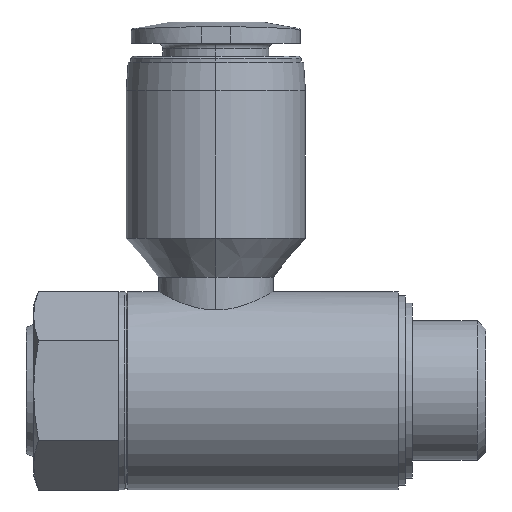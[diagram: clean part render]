
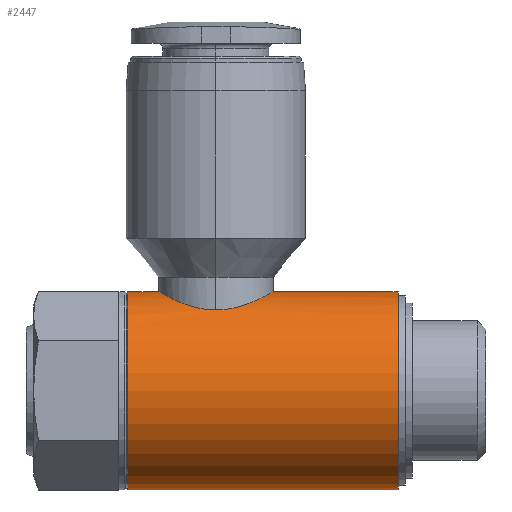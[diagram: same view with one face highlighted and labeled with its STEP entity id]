
A CAD part, left-side view. The second image highlights one B-rep face of the part: STEP entity #2447.
In plain terms, the highlighted cylindrical face has radius 6.9 mm (diameter 13.8 mm), a partial arc.
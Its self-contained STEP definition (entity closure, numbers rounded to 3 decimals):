
#5 = CARTESIAN_POINT ( 'NONE',  ( -0.271, 4., 6.9 ) ) ;
#14 = CARTESIAN_POINT ( 'NONE',  ( 0., -4., 6.9 ) ) ;
#16 = CARTESIAN_POINT ( 'NONE',  ( -3.867, 1.058, 5.715 ) ) ;
#134 = VECTOR ( 'NONE', #694, 1000. ) ;
#148 = LINE ( 'NONE', #474, #134 ) ;
#197 = CARTESIAN_POINT ( 'NONE',  ( -2.652, -3.005, 6.373 ) ) ;
#218 = CARTESIAN_POINT ( 'NONE',  ( 0., -12.7, 0. ) ) ;
#231 = CARTESIAN_POINT ( 'NONE',  ( -1.057, 3.867, 6.824 ) ) ;
#241 = CARTESIAN_POINT ( 'NONE',  ( -3.966, 0.537, 5.646 ) ) ;
#251 = EDGE_CURVE ( 'NONE', #2287, #656, #1396, .T. ) ;
#279 = ORIENTED_EDGE ( 'NONE', *, *, #291, .T. ) ;
#291 = EDGE_CURVE ( 'NONE', #2064, #2639, #2781, .T. ) ;
#324 = VERTEX_POINT ( 'NONE', #2071 ) ;
#451 = DIRECTION ( 'NONE',  ( 0., 0., 1. ) ) ;
#459 = CARTESIAN_POINT ( 'NONE',  ( -1.797, 3.583, 6.667 ) ) ;
#466 = CIRCLE ( 'NONE', #1532, 6.9 ) ;
#467 = CARTESIAN_POINT ( 'NONE',  ( -4., 0.135, 5.622 ) ) ;
#474 = CARTESIAN_POINT ( 'NONE',  ( 0., -11.15, -6.9 ) ) ;
#555 = CARTESIAN_POINT ( 'NONE',  ( -3.176, -2.445, 6.128 ) ) ;
#586 = DIRECTION ( 'NONE',  ( 0., 1., 0. ) ) ;
#588 = DIRECTION ( 'NONE',  ( 0., 1., 0. ) ) ;
#654 = EDGE_CURVE ( 'NONE', #2430, #2639, #1877, .T. ) ;
#656 = VERTEX_POINT ( 'NONE', #2096 ) ;
#674 = CARTESIAN_POINT ( 'NONE',  ( -2.456, 3.168, 6.452 ) ) ;
#694 = DIRECTION ( 'NONE',  ( 0., 1., 0. ) ) ;
#714 = ORIENTED_EDGE ( 'NONE', *, *, #2229, .F. ) ;
#721 = AXIS2_PLACEMENT_3D ( 'NONE', #1447, #588, #1886 ) ;
#826 = CARTESIAN_POINT ( 'NONE',  ( 0., 6.15, 0. ) ) ;
#906 = CARTESIAN_POINT ( 'NONE',  ( -3.013, 2.643, 6.21 ) ) ;
#1052 = DIRECTION ( 'NONE',  ( 0., 0., 1. ) ) ;
#1072 = ORIENTED_EDGE ( 'NONE', *, *, #1824, .T. ) ;
#1115 = CARTESIAN_POINT ( 'NONE',  ( -3.463, 2.018, 5.97 ) ) ;
#1191 = AXIS2_PLACEMENT_3D ( 'NONE', #826, #2325, #1052 ) ;
#1235 = EDGE_CURVE ( 'NONE', #324, #2484, #148, .T. ) ;
#1317 = ORIENTED_EDGE ( 'NONE', *, *, #1235, .F. ) ;
#1320 = CARTESIAN_POINT ( 'NONE',  ( -3.787, 1.314, 5.769 ) ) ;
#1396 = LINE ( 'NONE', #1477, #2808 ) ;
#1415 = CARTESIAN_POINT ( 'NONE',  ( 0., -12.7, 6.9 ) ) ;
#1422 = CARTESIAN_POINT ( 'NONE',  ( -3.867, -1.056, 5.715 ) ) ;
#1447 = CARTESIAN_POINT ( 'NONE',  ( 0., -11.15, 0. ) ) ;
#1477 = CARTESIAN_POINT ( 'NONE',  ( 0., -11.15, 6.9 ) ) ;
#1507 = CARTESIAN_POINT ( 'NONE',  ( -3.973, -0.534, 5.642 ) ) ;
#1525 = CARTESIAN_POINT ( 'NONE',  ( -0.536, 3.973, 6.884 ) ) ;
#1532 = AXIS2_PLACEMENT_3D ( 'NONE', #218, #1729, #451 ) ;
#1534 = CARTESIAN_POINT ( 'NONE',  ( -3.946, 0.669, 5.66 ) ) ;
#1639 = CARTESIAN_POINT ( 'NONE',  ( -4., 0., 5.622 ) ) ;
#1671 = CARTESIAN_POINT ( 'NONE',  ( -3.014, -2.642, 6.21 ) ) ;
#1729 = DIRECTION ( 'NONE',  ( 0., 1., 0. ) ) ;
#1743 = CARTESIAN_POINT ( 'NONE',  ( -1.314, 3.787, 6.778 ) ) ;
#1752 = CARTESIAN_POINT ( 'NONE',  ( -3.993, 0.271, 5.627 ) ) ;
#1824 = EDGE_CURVE ( 'NONE', #324, #2064, #466, .T. ) ;
#1839 = EDGE_CURVE ( 'NONE', #2287, #2430, #2073, .T. ) ;
#1859 = ORIENTED_EDGE ( 'NONE', *, *, #654, .F. ) ;
#1877 = B_SPLINE_CURVE_WITH_KNOTS ( 'NONE', 3,
 ( #2302, #2548, #1507, #1422, #2040, #2031, #1912, #555, #1671, #197, #2738, #2787, #2752, #2799, #2335, #2146, #2130, #2074 ),
 .UNSPECIFIED., .F., .F.,
 ( 4, 2, 2, 2, 2, 2, 2, 2, 4 ),
 ( 0.019, 0.02, 0.021, 0.022, 0.022, 0.023, 0.024, 0.025, 0.026 ),
 .UNSPECIFIED. ) ;
#1883 = CARTESIAN_POINT ( 'NONE',  ( 0., -11.15, 6.9 ) ) ;
#1886 = DIRECTION ( 'NONE',  ( 0., 0., 1. ) ) ;
#1912 = CARTESIAN_POINT ( 'NONE',  ( -3.462, -2.02, 5.971 ) ) ;
#1968 = CARTESIAN_POINT ( 'NONE',  ( -2.026, 3.459, 6.6 ) ) ;
#1978 = CARTESIAN_POINT ( 'NONE',  ( -4., 0., 5.622 ) ) ;
#2031 = CARTESIAN_POINT ( 'NONE',  ( -3.587, -1.79, 5.896 ) ) ;
#2035 = CYLINDRICAL_SURFACE ( 'NONE', #721, 6.9 ) ;
#2040 = CARTESIAN_POINT ( 'NONE',  ( -3.788, -1.31, 5.768 ) ) ;
#2064 = VERTEX_POINT ( 'NONE', #1415 ) ;
#2071 = CARTESIAN_POINT ( 'NONE',  ( 0., -12.7, -6.9 ) ) ;
#2073 = B_SPLINE_CURVE_WITH_KNOTS ( 'NONE', 3,
 ( #2381, #5, #1525, #231, #1743, #459, #1968, #674, #2175, #906, #2391, #1115, #2610, #1320, #16, #1534, #241, #1752, #467, #1978 ),
 .UNSPECIFIED., .F., .F.,
 ( 4, 2, 2, 2, 2, 2, 2, 2, 2, 4 ),
 ( 0.013, 0.014, 0.014, 0.015, 0.016, 0.017, 0.018, 0.018, 0.019, 0.019 ),
 .UNSPECIFIED. ) ;
#2074 = CARTESIAN_POINT ( 'NONE',  ( 0., -4., 6.9 ) ) ;
#2096 = CARTESIAN_POINT ( 'NONE',  ( 0., 6.15, 6.9 ) ) ;
#2130 = CARTESIAN_POINT ( 'NONE',  ( -0.27, -4., 6.9 ) ) ;
#2146 = CARTESIAN_POINT ( 'NONE',  ( -0.541, -3.972, 6.884 ) ) ;
#2175 = CARTESIAN_POINT ( 'NONE',  ( -2.653, 3.005, 6.373 ) ) ;
#2229 = EDGE_CURVE ( 'NONE', #2484, #656, #2385, .T. ) ;
#2287 = VERTEX_POINT ( 'NONE', #2711 ) ;
#2302 = CARTESIAN_POINT ( 'NONE',  ( -4., 0., 5.622 ) ) ;
#2325 = DIRECTION ( 'NONE',  ( 0., 1., 0. ) ) ;
#2335 = CARTESIAN_POINT ( 'NONE',  ( -1.062, -3.866, 6.823 ) ) ;
#2381 = CARTESIAN_POINT ( 'NONE',  ( 0., 4., 6.9 ) ) ;
#2385 = CIRCLE ( 'NONE', #1191, 6.9 ) ;
#2391 = CARTESIAN_POINT ( 'NONE',  ( -3.178, 2.443, 6.127 ) ) ;
#2430 = VERTEX_POINT ( 'NONE', #1639 ) ;
#2447 = ADVANCED_FACE ( 'CYL_0', ( #2609 ), #2035, .T. ) ;
#2466 = ORIENTED_EDGE ( 'NONE', *, *, #251, .T. ) ;
#2484 = VERTEX_POINT ( 'NONE', #2797 ) ;
#2548 = CARTESIAN_POINT ( 'NONE',  ( -4., -0.269, 5.622 ) ) ;
#2591 = EDGE_LOOP ( 'NONE', ( #1317, #1072, #279, #1859, #2740, #2466, #714 ) ) ;
#2609 = FACE_OUTER_BOUND ( 'NONE', #2591, .T. ) ;
#2610 = CARTESIAN_POINT ( 'NONE',  ( -3.585, 1.793, 5.897 ) ) ;
#2639 = VERTEX_POINT ( 'NONE', #14 ) ;
#2711 = CARTESIAN_POINT ( 'NONE',  ( 0., 4., 6.9 ) ) ;
#2738 = CARTESIAN_POINT ( 'NONE',  ( -2.453, -3.17, 6.453 ) ) ;
#2740 = ORIENTED_EDGE ( 'NONE', *, *, #1839, .F. ) ;
#2752 = CARTESIAN_POINT ( 'NONE',  ( -1.802, -3.581, 6.665 ) ) ;
#2780 = DIRECTION ( 'NONE',  ( 0., 1., 0. ) ) ;
#2781 = LINE ( 'NONE', #1883, #2795 ) ;
#2787 = CARTESIAN_POINT ( 'NONE',  ( -2.028, -3.457, 6.599 ) ) ;
#2795 = VECTOR ( 'NONE', #586, 1000. ) ;
#2797 = CARTESIAN_POINT ( 'NONE',  ( 0., 6.15, -6.9 ) ) ;
#2799 = CARTESIAN_POINT ( 'NONE',  ( -1.315, -3.787, 6.778 ) ) ;
#2808 = VECTOR ( 'NONE', #2780, 1000. ) ;
